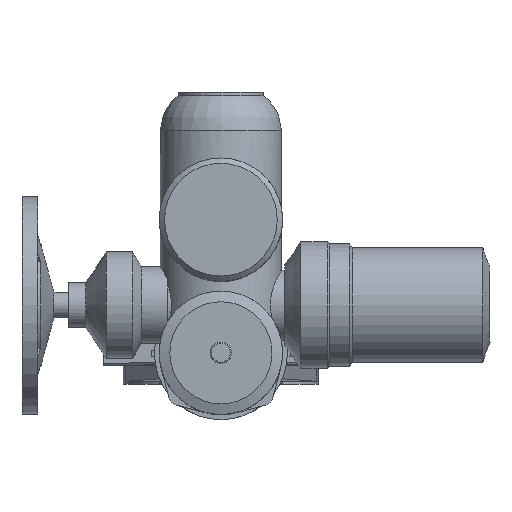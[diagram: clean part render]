
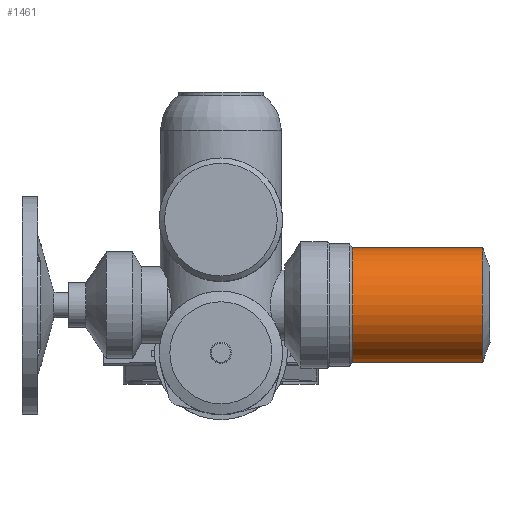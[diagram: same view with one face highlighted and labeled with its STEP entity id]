
A CAD part, top view. The second image highlights one B-rep face of the part: STEP entity #1461.
In plain terms, the highlighted cylindrical face has radius 54 mm (diameter 108 mm), a full revolution.
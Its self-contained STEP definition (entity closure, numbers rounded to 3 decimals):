
#1461=ADVANCED_FACE('',(#3455,#3457),#3459,.T.);
#3455=FACE_OUTER_BOUND('',#3456,.T.);
#3456=EDGE_LOOP('',(#4904));
#3457=FACE_OUTER_BOUND('',#3458,.T.);
#3458=EDGE_LOOP('',(#4905));
#3459=CYLINDRICAL_SURFACE('',#3460,54.);
#3460=AXIS2_PLACEMENT_3D('',#3461,#3462,#3463);
#3461=CARTESIAN_POINT('',(246.085,45.,470.));
#3462=DIRECTION('',(-1.,0.,0.));
#3463=DIRECTION('',(0.,0.,1.));
#4904=ORIENTED_EDGE('',*,*,#5740,.T.);
#4905=ORIENTED_EDGE('',*,*,#5670,.F.);
#5670=EDGE_CURVE('',#6507,#6507,#6508,.T.);
#5740=EDGE_CURVE('',#6629,#6629,#6630,.T.);
#6507=VERTEX_POINT('',#9381);
#6508=CIRCLE('',#9382,54.);
#6629=VERTEX_POINT('',#9663);
#6630=CIRCLE('',#9664,54.);
#9381=CARTESIAN_POINT('',(123.505,45.,524.));
#9382=AXIS2_PLACEMENT_3D('',#9383,#9384,#9385);
#9383=CARTESIAN_POINT('',(123.505,45.,470.));
#9384=DIRECTION('',(-1.,0.,0.));
#9385=DIRECTION('',(0.,0.,1.));
#9663=CARTESIAN_POINT('',(246.085,45.,524.));
#9664=AXIS2_PLACEMENT_3D('',#9665,#9666,#9667);
#9665=CARTESIAN_POINT('',(246.085,45.,470.));
#9666=DIRECTION('',(-1.,0.,0.));
#9667=DIRECTION('',(0.,0.,1.));
